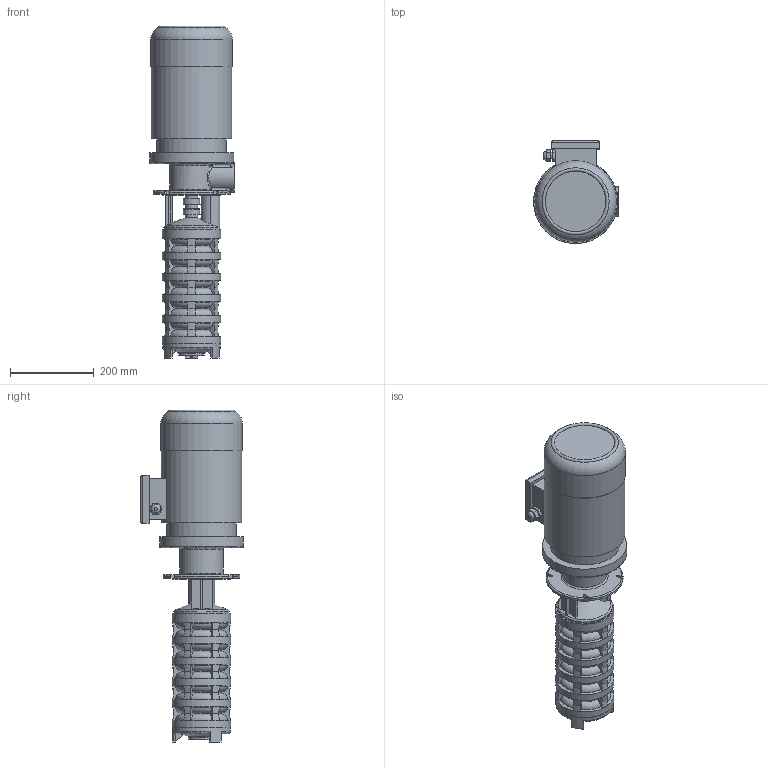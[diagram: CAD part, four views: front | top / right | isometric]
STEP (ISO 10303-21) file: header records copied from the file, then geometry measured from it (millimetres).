
FILE_DESCRIPTION(/* description */ ('Unknown'),/* implementation_level */ '2;1');
FILE_NAME(/* name */ 'gp6-390',/* time_stamp */ '2025-06-17T14:01:38+03:00',/* author */ ('Unknown'),/* organization */ ('Unknown'),/* preprocessor_version */ 'ST-DEVELOPER v16.7',/* originating_system */ 'DEX',/* authorisation */ $);
FILE_SCHEMA (('AUTOMOTIVE_DESIGN {1 0 10303 214 3 1 1}'));
Length unit declared in the file: millimetre
Products named in the file (1): gp6-390
Bounding box: 202 x 245.5 x 790.49 mm (x, y, z)
Volume: 15086685 mm3; surface area: 605616.4 mm2
Topology: 1 solids, 1 shells, 519 faces, 1394 edges, 908 vertices
Faces by surface type: plane 170, cylinder 101, cone 87, bspline 85, torus 76
Full cylindrical faces by diameter (mm): 17 x1, 21.5 x1, 29 x3, 33 x2, 35 x2, 39 x2, 40.5 x2, 45 x1, 47 x1, 60 x1, 137 x1, 139 x6, 140 x1, 165 x1, 192.353 x1, 194 x1, 200 x1
Entity records: 18926 total; most frequent: CARTESIAN_POINT 6455, ORIENTED_EDGE 2630, DIRECTION 2497, EDGE_CURVE 1315, AXIS2_PLACEMENT_3D 954, VERTEX_POINT 889, EDGE_LOOP 614, FACE_BOUND 614
